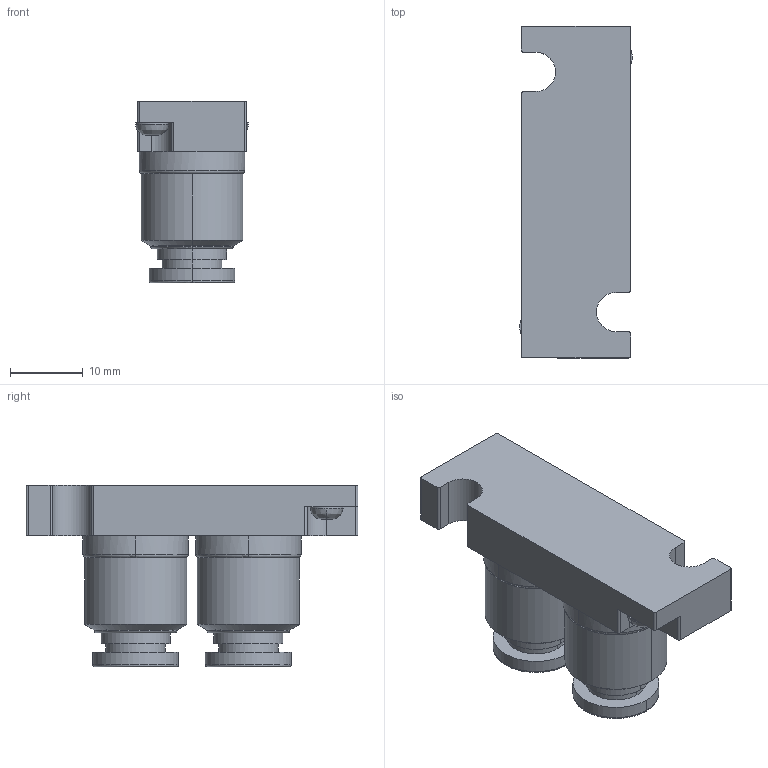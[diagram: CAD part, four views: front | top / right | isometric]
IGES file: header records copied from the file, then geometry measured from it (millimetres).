
Start section: ------------------------------------------------------------------------
Global section: file name: D:\ICADMX\tmp\trans3d_spg\CVICAD02.4536.F15_Port-VJ5_17945.igs; native system: spGate; preprocessor: ver12.6.6; author: Unknown; organization: Unknown; date: 210712.185441; units: millimetre
Bounding box: 15.5 x 45.6 x 25 mm (x, y, z)
Volume: 8278.6 mm3; surface area: 4459.5 mm2
Topology: 1 solids, 1 shells, 102 faces, 238 edges, 150 vertices
Faces by surface type: bspline 102
